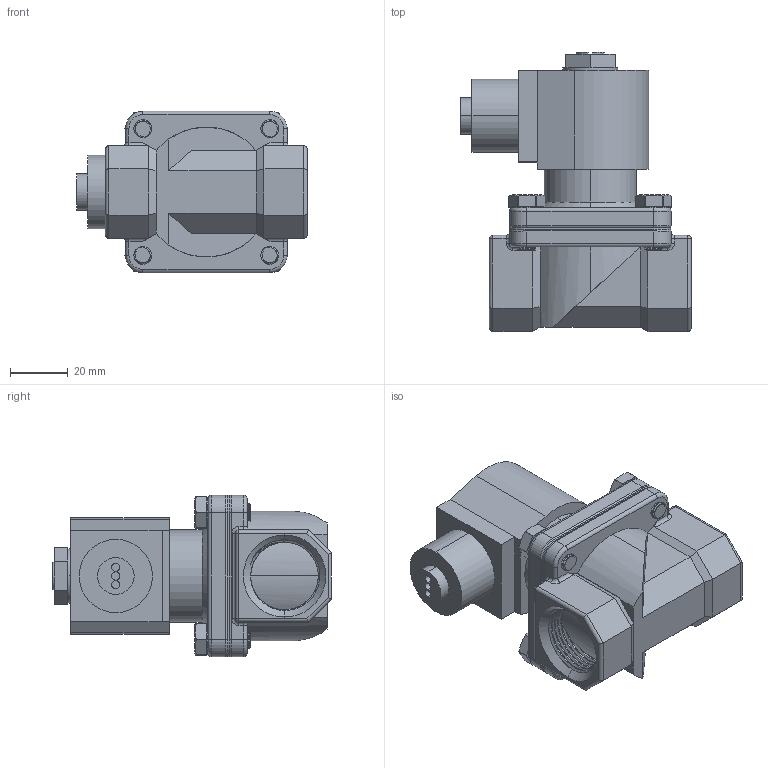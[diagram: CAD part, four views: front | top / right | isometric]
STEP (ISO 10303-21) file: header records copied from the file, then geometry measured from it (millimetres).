
FILE_DESCRIPTION (( 'STEP AP203' ), '1' );
FILE_NAME ('S211G_E.STEP', '2022-06-01T15:44:13', ( '' ), ( '' ), 'SwSTEP 2.0', 'SolidWorks 2022', '' );
FILE_SCHEMA (( 'CONFIG_CONTROL_DESIGN' ));
Length unit declared in the file: inch
Products named in the file (1): S211G_E
Bounding box: 79.91 x 96.75 x 56.01 mm (x, y, z)
Volume: 171857.7 mm3; surface area: 29219.1 mm2
Topology: 1 solids, 1 shells, 389 faces, 980 edges, 612 vertices
Faces by surface type: plane 159, cylinder 143, bspline 41, torus 24, cone 18, sphere 4
Entity records: 32341 total; most frequent: CARTESIAN_POINT 23710, ORIENTED_EDGE 1952, DIRECTION 1598, EDGE_CURVE 976, VERTEX_POINT 612, AXIS2_PLACEMENT_3D 580, LINE 438, VECTOR 438
